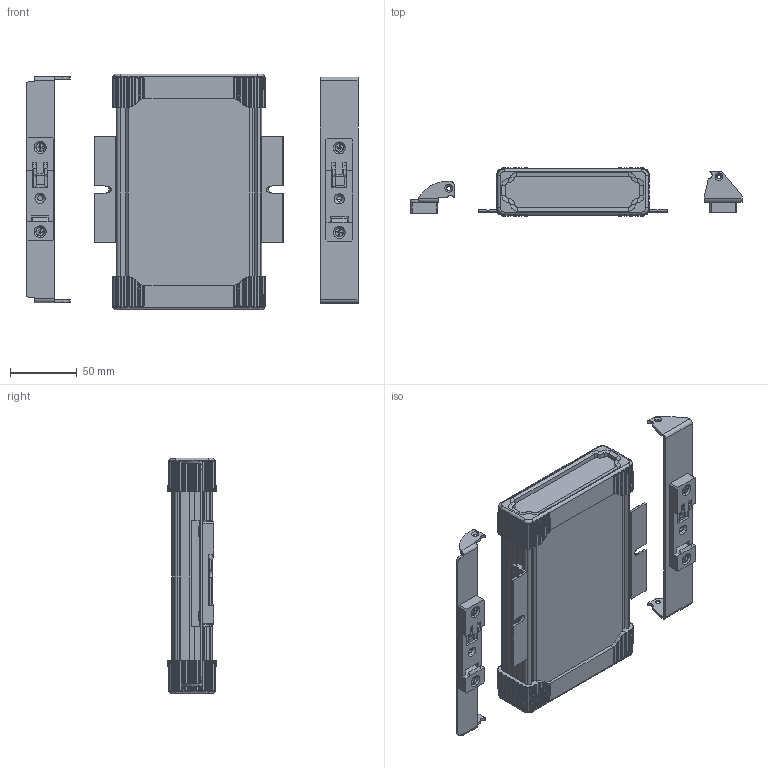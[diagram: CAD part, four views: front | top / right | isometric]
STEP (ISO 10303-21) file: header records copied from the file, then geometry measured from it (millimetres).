
FILE_DESCRIPTION (( 'STEP AP214' ), '1' );
FILE_NAME ('B2-160 Assembly.STEP', '2025-06-08T00:56:27', ( '' ), ( '' ), 'SwSTEP 2.0', 'SolidWorks 2025', '' );
FILE_SCHEMA (( 'AUTOMOTIVE_DESIGN' ));
Length unit declared in the file: millimetre
Products named in the file (18): BRV160 assembly; MF-80; BRH160 assembly; BRH160; Torx Screw M3X0.5; SK1 Seal; End Plate; B2-160 Main Body; 6-32 PEM Nut; CR-FHMS 0.138-32x0.375x0.375-N_CR-FHMS 0.138-32x0.375x0.375-N; SEALING WASHER; Pusher; Screw assembly; B2-160 Assembly; spring; EC2_END_CAP_OPTIONAL_ACCESSORY; Clamp mechanism; BRV160
Assembly tree (39 placements, depth 3):
  B2-160 Assembly
    B2-160 Main Body
    SK1 Seal  x4
    End Plate  x2
    Screw assembly  x8
      SEALING WASHER
      Torx Screw M3X0.5
    EC2_END_CAP_OPTIONAL_ACCESSORY  x2
    MF-80  x2
    BRH160 assembly
      Clamp mechanism
      BRH160
      Pusher
      spring
      6-32 PEM Nut  x2
      CR-FHMS 0.138-32x0.375x0.375-N_CR-FHMS 0.138-32x0.375x0.375-N  x2
    BRV160 assembly
      Clamp mechanism
      Pusher
      spring
      6-32 PEM Nut  x2
      CR-FHMS 0.138-32x0.375x0.375-N_CR-FHMS 0.138-32x0.375x0.375-N  x2
      BRV160
Bounding box: 247.84 x 36 x 176 mm (x, y, z)
Volume: 199730.2 mm3; surface area: 204761.3 mm2
Topology: 43 solids, 43 shells, 2934 faces, 7648 edges, 4814 vertices
Faces by surface type: cylinder 1086, plane 850, bspline 686, cone 276, torus 36
Entity records: 69315 total; most frequent: CARTESIAN_POINT 29175, ORIENTED_EDGE 7374, DIRECTION 5549, EDGE_CURVE 3687, VERTEX_POINT 2331, AXIS2_PLACEMENT_3D 1923, LINE 1703, VECTOR 1703
